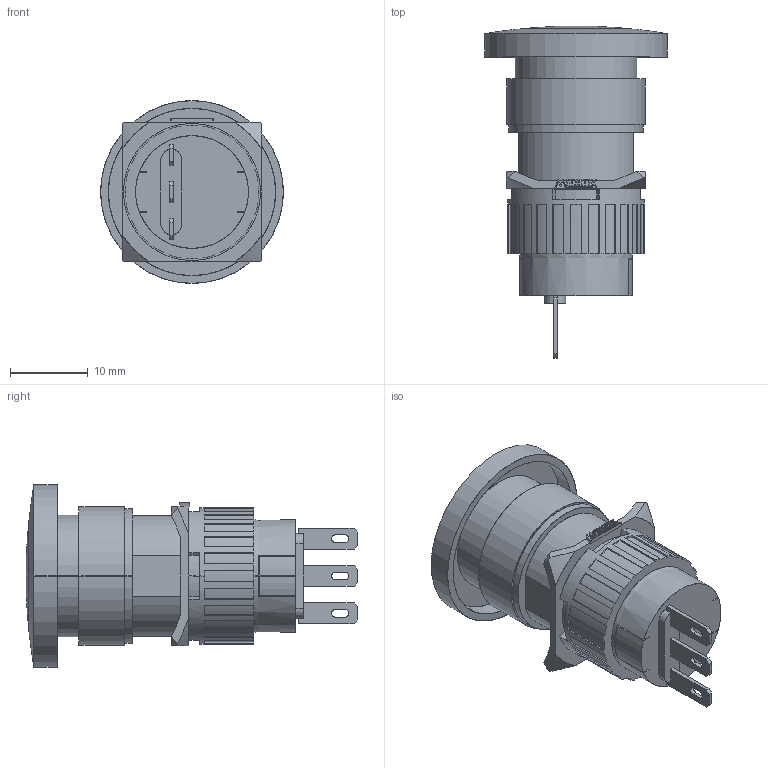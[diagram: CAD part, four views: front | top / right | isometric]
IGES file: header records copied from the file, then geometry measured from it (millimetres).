
Start section: SolidWorks IGES file using analytic representation for surfaces
Global section: file name: D:\X - Arquivos\PROEX\Empresas\P11 - METALTEX\01 - Produtos\IGES\Terceira remessa\Etapa 3\P16-MR.IGS; native system: SolidWorks 2012; preprocessor: SolidWorks 2012; author: Usuario; date: 180215.132623; units: millimetre
Bounding box: 23.5 x 42.7 x 23.5 mm (x, y, z)
Surface area: 4215.7 mm2 (no closed solid volume)
Topology: 0 solids, 0 shells, 328 faces, 2444 edges, 2443 vertices
Faces by surface type: bspline 246, revolution 82
